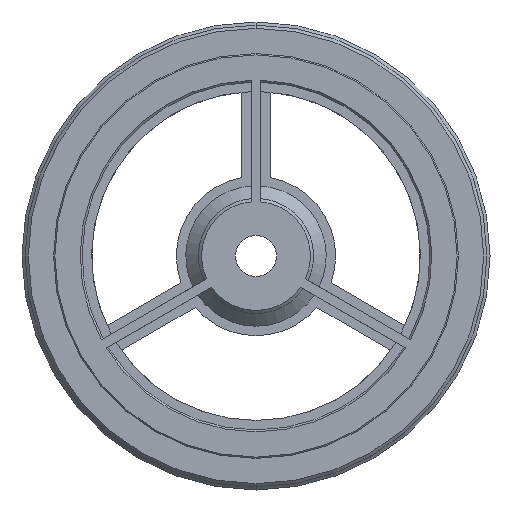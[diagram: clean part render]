
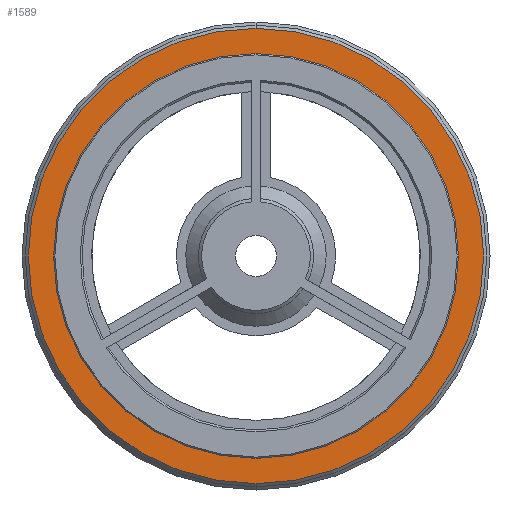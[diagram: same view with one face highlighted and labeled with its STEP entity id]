
A CAD part, front view. The second image highlights one B-rep face of the part: STEP entity #1589.
In plain terms, the highlighted planar face has unit normal (0, -1, 0).
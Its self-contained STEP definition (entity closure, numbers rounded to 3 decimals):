
#12 = VERTEX_POINT ( 'NONE', #47 ) ;
#47 = CARTESIAN_POINT ( 'NONE',  ( 0., -7., 32. ) ) ;
#71 = ORIENTED_EDGE ( 'NONE', *, *, #1131, .T. ) ;
#73 = CARTESIAN_POINT ( 'NONE',  ( 0., -7., -32. ) ) ;
#248 = EDGE_CURVE ( 'NONE', #1741, #1129, #2186, .T. ) ;
#258 = EDGE_LOOP ( 'NONE', ( #1356, #71 ) ) ;
#376 = DIRECTION ( 'NONE',  ( 0., -1., 0. ) ) ;
#436 = PLANE ( 'NONE',  #1805 ) ;
#542 = CARTESIAN_POINT ( 'NONE',  ( 0., -7., 0. ) ) ;
#689 = CARTESIAN_POINT ( 'NONE',  ( 0., -7., 0. ) ) ;
#846 = DIRECTION ( 'NONE',  ( 0., 0., 1. ) ) ;
#898 = AXIS2_PLACEMENT_3D ( 'NONE', #542, #2628, #846 ) ;
#942 = AXIS2_PLACEMENT_3D ( 'NONE', #2158, #376, #2468 ) ;
#1006 = DIRECTION ( 'NONE',  ( 0., -1., 0. ) ) ;
#1077 = CIRCLE ( 'NONE', #1358, 36. ) ;
#1125 = EDGE_CURVE ( 'NONE', #12, #1714, #1165, .T. ) ;
#1129 = VERTEX_POINT ( 'NONE', #3339 ) ;
#1131 = EDGE_CURVE ( 'NONE', #1129, #1741, #1077, .T. ) ;
#1165 = CIRCLE ( 'NONE', #942, 32. ) ;
#1274 = DIRECTION ( 'NONE',  ( 0., -1., 0. ) ) ;
#1331 = DIRECTION ( 'NONE',  ( 0., 0., 1. ) ) ;
#1356 = ORIENTED_EDGE ( 'NONE', *, *, #248, .T. ) ;
#1358 = AXIS2_PLACEMENT_3D ( 'NONE', #3048, #1274, #3355 ) ;
#1505 = EDGE_LOOP ( 'NONE', ( #3434, #3346 ) ) ;
#1580 = CARTESIAN_POINT ( 'NONE',  ( 0., -7., 36. ) ) ;
#1589 = ADVANCED_FACE ( 'NONE', ( #3206, #2339 ), #436, .F. ) ;
#1714 = VERTEX_POINT ( 'NONE', #73 ) ;
#1741 = VERTEX_POINT ( 'NONE', #1580 ) ;
#1805 = AXIS2_PLACEMENT_3D ( 'NONE', #2189, #3113, #1331 ) ;
#2158 = CARTESIAN_POINT ( 'NONE',  ( 0., -7., 0. ) ) ;
#2186 = CIRCLE ( 'NONE', #3232, 36. ) ;
#2189 = CARTESIAN_POINT ( 'NONE',  ( 0., -7., 0. ) ) ;
#2339 = FACE_BOUND ( 'NONE', #1505, .T. ) ;
#2468 = DIRECTION ( 'NONE',  ( 0., 0., 1. ) ) ;
#2494 = DIRECTION ( 'NONE',  ( 0., 0., 1. ) ) ;
#2628 = DIRECTION ( 'NONE',  ( 0., -1., 0. ) ) ;
#2819 = CIRCLE ( 'NONE', #898, 32. ) ;
#3048 = CARTESIAN_POINT ( 'NONE',  ( 0., -7., 0. ) ) ;
#3113 = DIRECTION ( 'NONE',  ( 0., 1., 0. ) ) ;
#3129 = EDGE_CURVE ( 'NONE', #1714, #12, #2819, .T. ) ;
#3206 = FACE_OUTER_BOUND ( 'NONE', #258, .T. ) ;
#3232 = AXIS2_PLACEMENT_3D ( 'NONE', #689, #1006, #2494 ) ;
#3339 = CARTESIAN_POINT ( 'NONE',  ( 0., -7., -36. ) ) ;
#3346 = ORIENTED_EDGE ( 'NONE', *, *, #3129, .F. ) ;
#3355 = DIRECTION ( 'NONE',  ( 0., 0., 1. ) ) ;
#3434 = ORIENTED_EDGE ( 'NONE', *, *, #1125, .F. ) ;
